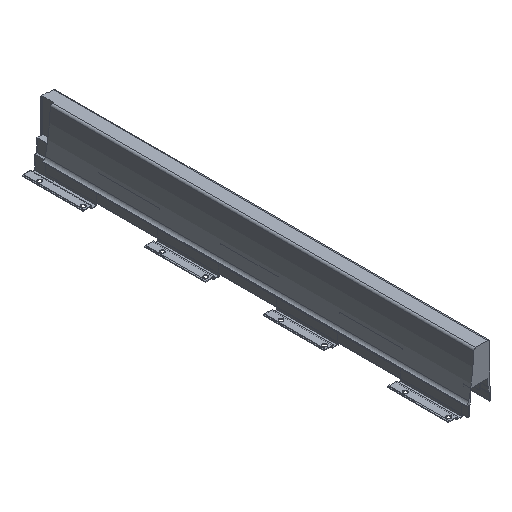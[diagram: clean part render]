
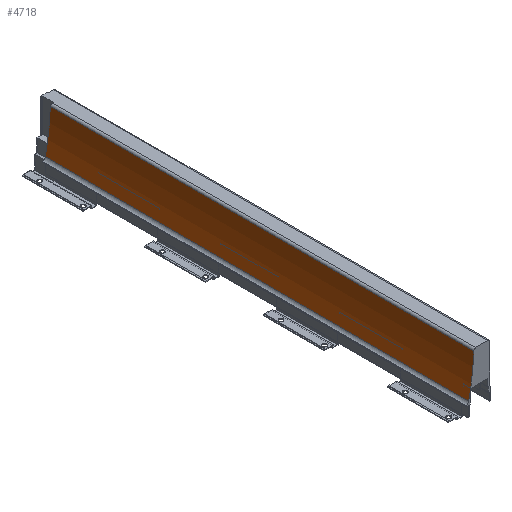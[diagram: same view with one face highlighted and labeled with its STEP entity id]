
A CAD part, isometric view. The second image highlights one B-rep face of the part: STEP entity #4718.
In plain terms, the highlighted cylindrical face has radius 350 mm (diameter 700 mm), a partial arc.
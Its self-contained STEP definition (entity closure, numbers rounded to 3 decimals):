
#451 = CARTESIAN_POINT ( 'NONE',  ( -27.28, 623.8, -13.751 ) ) ;
#452 = CARTESIAN_POINT ( 'NONE',  ( -19.877, 623.8, 46.603 ) ) ;
#562 = CARTESIAN_POINT ( 'NONE',  ( -27.28, 0., -13.751 ) ) ;
#567 = CARTESIAN_POINT ( 'NONE',  ( -19.877, 0., 46.603 ) ) ;
#963 = CYLINDRICAL_SURFACE ( 'NONE', #1514, 350. ) ;
#965 = FACE_OUTER_BOUND ( 'NONE', #3950, .T. ) ;
#1284 = EDGE_CURVE ( 'NONE', #4261, #4376, #3656, .T. ) ;
#1315 = EDGE_CURVE ( 'NONE', #4260, #4371, #3393, .T. ) ;
#1369 = EDGE_CURVE ( 'NONE', #4376, #4371, #3497, .T. ) ;
#1399 = EDGE_CURVE ( 'NONE', #4261, #4260, #2127, .T. ) ;
#1507 = AXIS2_PLACEMENT_3D ( 'NONE', #5048, #5060, #5061 ) ;
#1514 = AXIS2_PLACEMENT_3D ( 'NONE', #3317, #3309, #3312 ) ;
#1827 = AXIS2_PLACEMENT_3D ( 'NONE', #5123, #5124, #5125 ) ;
#2127 = CIRCLE ( 'NONE', #1827, 350. ) ;
#3309 = DIRECTION ( 'NONE',  ( 0., -1., 0. ) ) ;
#3312 = DIRECTION ( 'NONE',  ( 1., 0., 0. ) ) ;
#3317 = CARTESIAN_POINT ( 'NONE',  ( -369.661, 640., 58.879 ) ) ;
#3393 = LINE ( 'NONE', #4937, #3398 ) ;
#3398 = VECTOR ( 'NONE', #4939, 1000. ) ;
#3497 = CIRCLE ( 'NONE', #1507, 350. ) ;
#3656 = LINE ( 'NONE', #4874, #3657 ) ;
#3657 = VECTOR ( 'NONE', #4875, 1000. ) ;
#3777 = ORIENTED_EDGE ( 'NONE', *, *, #1284, .F. ) ;
#3787 = ORIENTED_EDGE ( 'NONE', *, *, #1399, .T. ) ;
#3834 = ORIENTED_EDGE ( 'NONE', *, *, #1315, .T. ) ;
#3837 = ORIENTED_EDGE ( 'NONE', *, *, #1369, .F. ) ;
#3950 = EDGE_LOOP ( 'NONE', ( #3777, #3787, #3834, #3837 ) ) ;
#4260 = VERTEX_POINT ( 'NONE', #451 ) ;
#4261 = VERTEX_POINT ( 'NONE', #452 ) ;
#4371 = VERTEX_POINT ( 'NONE', #562 ) ;
#4376 = VERTEX_POINT ( 'NONE', #567 ) ;
#4718 = ADVANCED_FACE ( 'NONE', ( #965 ), #963, .F. ) ;
#4874 = CARTESIAN_POINT ( 'NONE',  ( -19.877, 640., 46.603 ) ) ;
#4875 = DIRECTION ( 'NONE',  ( 0., -1., 0. ) ) ;
#4937 = CARTESIAN_POINT ( 'NONE',  ( -27.28, 640., -13.751 ) ) ;
#4939 = DIRECTION ( 'NONE',  ( 0., -1., 0. ) ) ;
#5048 = CARTESIAN_POINT ( 'NONE',  ( -369.661, 0., 58.879 ) ) ;
#5060 = DIRECTION ( 'NONE',  ( 0., 1., 0. ) ) ;
#5061 = DIRECTION ( 'NONE',  ( -1., 0., 0. ) ) ;
#5123 = CARTESIAN_POINT ( 'NONE',  ( -369.661, 623.8, 58.879 ) ) ;
#5124 = DIRECTION ( 'NONE',  ( 0., 1., 0. ) ) ;
#5125 = DIRECTION ( 'NONE',  ( -1., 0., 0. ) ) ;
